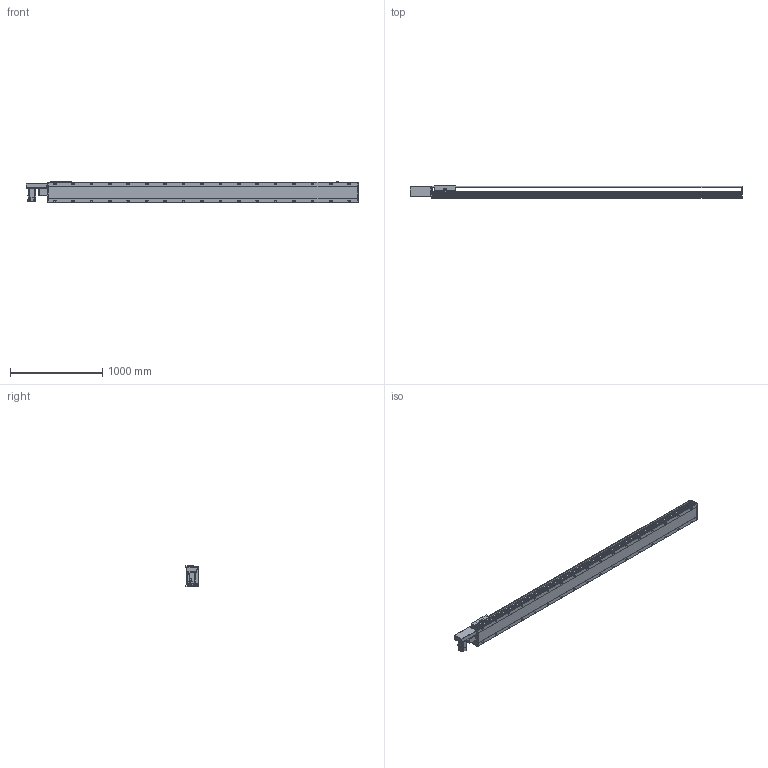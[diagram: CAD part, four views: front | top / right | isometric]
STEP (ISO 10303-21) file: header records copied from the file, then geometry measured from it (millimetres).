
FILE_DESCRIPTION(/* description */ ('STEP AP214'),/* implementation_level */ '2;1');
FILE_NAME(/* name */ 'PBS220-P40-S3000-R-T75-C1-N(0)',/* time_stamp */ '2022-06-11T10:03:48+02:00',/* author */ ('License CC BY-ND 4.0'),/* organization */ ('CADENAS'),/* preprocessor_version */ 'ST-DEVELOPER v18.102',/* originating_system */ 'PARTsolutions',/* authorisation */ ' ');
FILE_SCHEMA (('AUTOMOTIVE_DESIGN {1 0 10303 214 3 1 1}'));
Length unit declared in the file: millimetre
Products named in the file (7): PBS220-P40-S3000-R-T75-C1-N(0); PBS220_sensor; PBS220_plant; PBS220_sliser; T75-p1; PBS220T-R_motors; PBS220-S3000()_body
Assembly tree (8 placements, depth 2):
  PBS220-P40-S3000-R-T75-C1-N(0)
    PBS220_sensor  x3
    PBS220_plant
    PBS220_sliser
    T75-p1
    PBS220T-R_motors
    PBS220-S3000()_body
Bounding box: 3606 x 134 x 238.5 mm (x, y, z)
Volume: 48396081.2 mm3; surface area: 4391206.3 mm2
Topology: 8 solids, 8 shells, 1022 faces, 2648 edges, 1720 vertices
Faces by surface type: plane 634, cylinder 330, cone 58
Full cylindrical faces by diameter (mm): 2.013 x4, 4.5 x14, 4.917 x4, 6 x7, 6.647 x8, 8 x10, 8.376 x34, 8.5 x34, 10 x6, 14 x34, 38 x2, 40 x1, 70 x1
Entity records: 28437 total; most frequent: CARTESIAN_POINT 5086, DIRECTION 4941, ORIENTED_EDGE 4430, EDGE_CURVE 2215, AXIS2_PLACEMENT_3D 1789, VERTEX_POINT 1560, LINE 1363, VECTOR 1363
